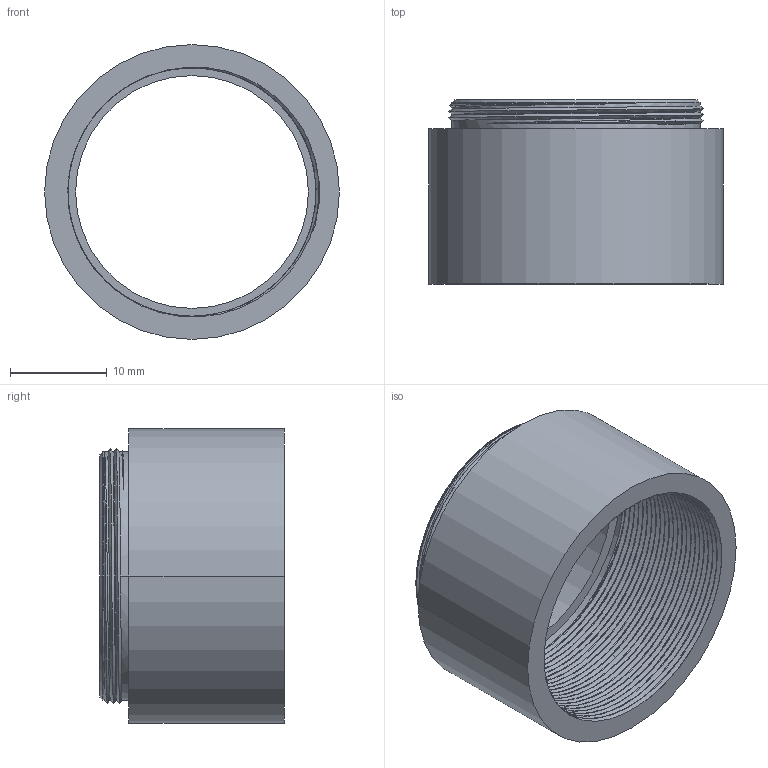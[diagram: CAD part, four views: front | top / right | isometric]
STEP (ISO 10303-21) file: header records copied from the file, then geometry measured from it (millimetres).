
FILE_DESCRIPTION((''),'2;1');
FILE_NAME('CSA-16','2020-10-29T',('Administrator'),(''),'CREO PARAMETRIC BY PTC INC, 2015290','CREO PARAMETRIC BY PTC INC, 2015290','');
FILE_SCHEMA(('CONFIG_CONTROL_DESIGN'));
Length unit declared in the file: millimetre
Products named in the file (1): CSA-16
Bounding box: 30.4 x 19 x 30.4 mm (x, y, z)
Volume: 3440 mm3; surface area: 4555.3 mm2
Topology: 1 solids, 1 shells, 85 faces, 230 edges, 150 vertices
Faces by surface type: cylinder 57, bspline 20, plane 6, cone 2
Entity records: 9572 total; most frequent: CARTESIAN_POINT 7695, ORIENTED_EDGE 460, DIRECTION 248, EDGE_CURVE 230, VERTEX_POINT 150, B_SPLINE_CURVE_WITH_KNOTS 132, EDGE_LOOP 90, AXIS2_PLACEMENT_3D 85
